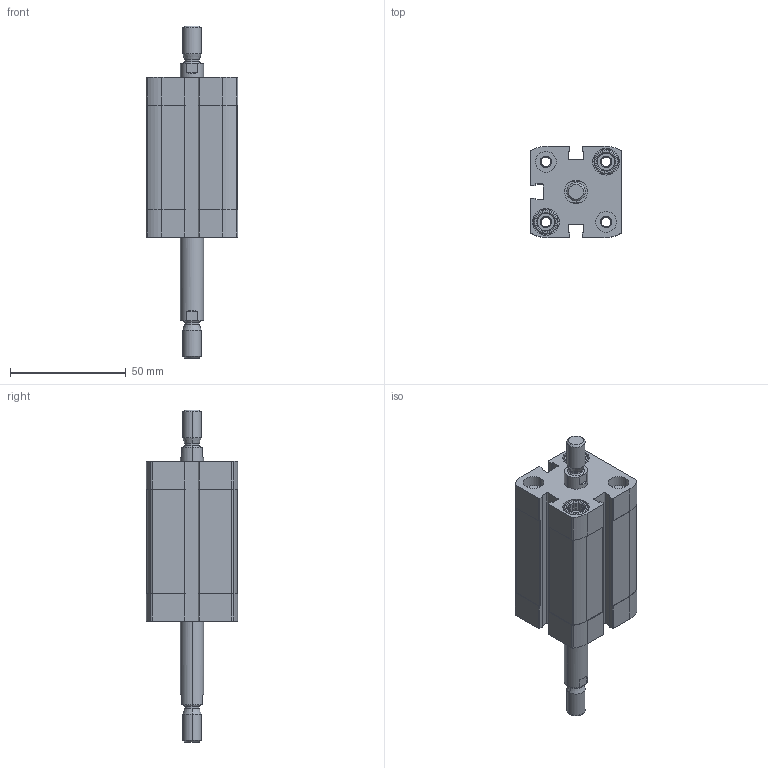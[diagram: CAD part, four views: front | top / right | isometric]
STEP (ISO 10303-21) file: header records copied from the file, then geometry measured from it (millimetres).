
FILE_DESCRIPTION (( 'STEP AP203' ), '1' );
FILE_NAME ('CCN25-30-P.STEP', '2020-06-22T18:43:21', ( '' ), ( '' ), 'SwSTEP 2.0', 'SolidWorks 2019', '' );
FILE_SCHEMA (( 'CONFIG_CONTROL_DESIGN' ));
Length unit declared in the file: millimetre
Products named in the file (1): CCN25-30-P
Bounding box: 39.5 x 39.5 x 143.5 mm (x, y, z)
Volume: 83026.6 mm3; surface area: 32478 mm2
Topology: 2 solids, 2 shells, 428 faces, 1120 edges, 728 vertices
Faces by surface type: plane 236, cylinder 140, cone 44, torus 8
Entity records: 13423 total; most frequent: CARTESIAN_POINT 2577, DIRECTION 2314, ORIENTED_EDGE 2240, EDGE_CURVE 1120, AXIS2_PLACEMENT_3D 865, VERTEX_POINT 728, VECTOR 584, LINE 584
